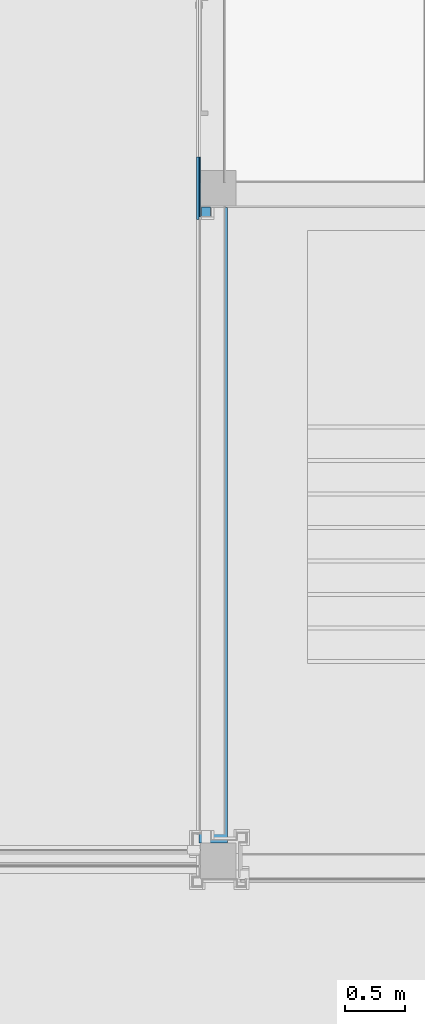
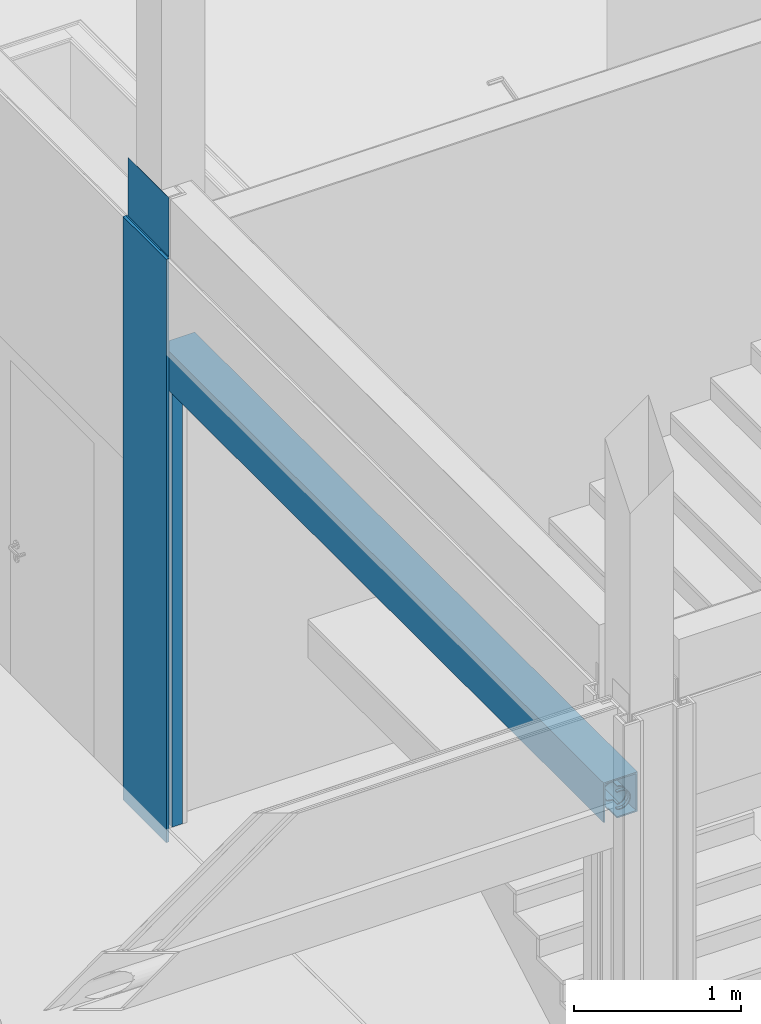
# One storey, part 173 of 260: 2 building element parts, 2 discrete accessories, 1 element without a shape of its own.
"""IFC2X3 building model written with IfcOpenShell, lengths in millimetres."""

from ifc_helpers import new_model, entity, si_unit, converted_unit, derived_unit, money_unit, direction, frame, origin_with_axes, place, context, subcontext, project, spatial, faceted_brep, material, material_list, type_object, element, aggregate, save


model = new_model("IFC2X3")

# Units and contexts
model_context = context("Model", 3, precision=0.01, world=origin_with_axes(), true_north=direction((0.0, 1.0)))
body_context = subcontext(model_context, "Body", "Model", "MODEL_VIEW")
ifc_project = project(units=[si_unit("LENGTHUNIT", "METRE", prefix="MILLI"), si_unit("AREAUNIT", "SQUARE_METRE"), si_unit("VOLUMEUNIT", "CUBIC_METRE"), converted_unit("PLANEANGLEUNIT", "DEGREE", entity("IfcPlaneAngleMeasure", 0.0174532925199), si_unit("PLANEANGLEUNIT", "RADIAN"), dimensions=[0, 0, 0, 0, 0, 0, 0]), money_unit("EUR"), converted_unit("TIMEUNIT", "Year", entity("IfcTimeMeasure", 31556926.0), si_unit("TIMEUNIT", "SECOND"), dimensions=[0, 0, 1, 0, 0, 0, 0]), si_unit("MASSUNIT", "GRAM", prefix="KILO"), si_unit("THERMODYNAMICTEMPERATUREUNIT", "DEGREE_CELSIUS"), si_unit("LUMINOUSINTENSITYUNIT", "LUMEN"), si_unit("ENERGYUNIT", "JOULE", prefix="MEGA"), derived_unit("THERMALCONDUCTANCEUNIT", [(si_unit("POWERUNIT", "WATT"), 1), (si_unit("LENGTHUNIT", "METRE"), -1), (si_unit("THERMODYNAMICTEMPERATUREUNIT", "KELVIN"), -1)]), derived_unit("SPECIFICHEATCAPACITYUNIT", [(si_unit("ENERGYUNIT", "JOULE"), 1), (si_unit("MASSUNIT", "GRAM", prefix="KILO"), -1), (si_unit("THERMODYNAMICTEMPERATUREUNIT", "KELVIN"), -1)]), derived_unit("MASSDENSITYUNIT", [(si_unit("MASSUNIT", "GRAM", prefix="KILO"), 1), (si_unit("VOLUMEUNIT", "CUBIC_METRE"), -1)])], contexts=[model_context])

# Site, building, storey
site_placement = place(None, origin_with_axes())
site = spatial("IfcSite", under=ifc_project, at=site_placement, Name="Kolde pst 67a", CompositionType="ELEMENT")
building_placement = place(site_placement, origin_with_axes())
building = spatial("IfcBuilding", under=site, at=building_placement, Name="Riigigümnaasium", CompositionType="ELEMENT")
storey_placement = place(building_placement, origin_with_axes())
storey = spatial("IfcBuildingStorey", under=building, at=storey_placement, Name="1. korrus", CompositionType="ELEMENT", Elevation=0.0)

# Discrete accessories
ifc_material_1 = material(Name="_ÕHK")
ifc_material_2 = material(Name="_METALL - teras")
ifc_material_list = material_list([ifc_material_1, ifc_material_2])
discrete_accessory_type_1 = type_object("IfcDiscreteAccessoryType", Name="Fibreshield-p H kuni 6 m  235 x 290")
discrete_accessory_1_placement = place(storey_placement, frame((52819.9941222, 34229.9999729, 3200.0), z_axis=(0.0, 0.0, 1.0), x_axis=(-1.0, 0.0, 0.0)))
element("IfcDiscreteAccessory", 1, at=discrete_accessory_1_placement, inside=storey, type_object=discrete_accessory_type_1, material=ifc_material_list, Name="Tuletõkkekardin", context=body_context, shape_type="Brep", body=[
    faceted_brep([(123.519091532, 0.0, 69.546054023), (123.519091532, 70.0, 69.546054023), (117.000000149, 70.0, 67.9912692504), (117.000000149, 0.0, 67.9912692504), (125.382804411, 0.0, 64.871315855), (125.382804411, 70.0, 64.871315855), (117.000000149, 70.0, 62.3838057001), (117.000000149, 0.0, 62.3838057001)], [[[0, 1, 2, 3]], [[4, 5, 1, 0]], [[5, 6, 2, 1]], [[3, 2, 6, 7]], [[0, 3, 7, 4]], [[7, 6, 5, 4]]]),
    faceted_brep([(157.499999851, 70.0, 20.0), (157.499999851, 0.0, 20.0), (157.499999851, 0.0, 126.667118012), (157.499999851, 70.0, 126.667118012), (162.499999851, 0.0, 20.0), (162.499999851, 70.0, 20.0), (162.499999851, 0.0, 126.667118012), (161.228447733, 0.0, 139.948701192), (157.459986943, 0.0, 152.747763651), (146.556964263, 0.0, 171.140082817), (130.610610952, 0.0, 185.383225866), (117.000000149, 0.0, 191.50050212), (117.000000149, 0.0, 185.870531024), (124.999999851, 0.0, 182.958769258), (142.292888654, 0.0, 168.448312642), (153.580020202, 0.0, 148.898427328), (153.580020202, 70.0, 148.898427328), (142.292888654, 70.0, 168.448312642), (124.999999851, 70.0, 182.958769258), (117.000000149, 70.0, 185.870531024), (117.000000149, 70.0, 191.50050212), (130.610610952, 70.0, 185.383225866), (146.556964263, 70.0, 171.140082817), (157.459986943, 70.0, 152.747763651), (161.228447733, 70.0, 139.948701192), (162.499999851, 70.0, 126.667118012)], [[[0, 1, 2, 3]], [[4, 1, 0, 5]], [[1, 4, 6, 7, 8, 9, 10, 11, 12, 13, 14, 15, 2]], [[15, 16, 3, 2]], [[5, 0, 3, 16, 17, 18, 19, 20, 21, 22, 23, 24, 25]], [[4, 5, 25, 6]], [[6, 25, 24, 7]], [[7, 24, 23, 8]], [[8, 23, 22, 9]], [[9, 22, 21, 10]], [[10, 21, 20, 11]], [[11, 20, 19, 12]], [[12, 19, 18, 13]], [[13, 18, 17, 14]], [[14, 17, 16, 15]]]),
    faceted_brep([(116.0, 5290.00031686, 62.0870660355), (116.0, 5290.00031686, 67.7527720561), (106.0, 5290.00031686, 65.3678004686), (106.0, 5290.00031686, 59.4547520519), (107.591032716, 5290.00031686, 59.5917922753), (116.0, 5310.00031686, 67.7527720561), (116.0, 5310.00031686, 62.0870660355), (97.8520772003, 5310.00031686, 63.4245440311), (97.8520772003, 5290.00031686, 63.4245440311), (103.787131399, 5290.00031686, 190.679621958), (106.0, 5290.00031686, 189.874203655), (106.0, 5290.00031686, 194.742343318), (89.8705986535, 5290.00031686, 196.617716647), (68.8778440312, 5290.00031686, 192.560924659), (50.0889560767, 5290.00031686, 182.356464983), (35.2568740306, 5290.00031686, 166.956378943), (25.7653806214, 5290.00031686, 147.797442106), (22.499999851, 5290.00031686, 126.667118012), (24.8060324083, 5290.00031686, 108.84783711), (31.572193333, 5290.00031686, 92.2026088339), (42.3526829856, 5290.00031686, 77.8281314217), (56.4372110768, 5290.00031686, 66.6714909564), (70.6684146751, 5290.00031686, 60.1586081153), (89.1009241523, 5290.00031686, 57.9991860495), (71.5213638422, 5290.00031686, 65.1456028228), (53.7254339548, 5290.00031686, 74.4988034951), (39.6388073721, 5290.00031686, 88.8425977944), (30.6090574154, 5290.00031686, 106.804810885), (27.499999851, 5290.00031686, 126.667118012), (31.4199794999, 5290.00031686, 148.898427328), (42.7071110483, 5290.00031686, 168.448312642), (59.999999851, 5290.00031686, 182.958769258), (81.2128683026, 5290.00031686, 190.679621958), (107.591032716, 5310.00031686, 59.5917922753), (89.1009241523, 5310.00031686, 57.9991860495), (116.0, 5310.00031686, 191.949951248), (116.0, 5310.00031686, 186.234501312), (103.787131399, 5310.00031686, 190.679621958), (81.2128683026, 5310.00031686, 190.679621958), (59.999999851, 5310.00031686, 182.958769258), (42.7071110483, 5310.00031686, 168.448312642), (31.4199794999, 5310.00031686, 148.898427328), (27.499999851, 5310.00031686, 126.667118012), (30.6090574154, 5310.00031686, 106.804810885), (39.6388073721, 5310.00031686, 88.8425977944), (53.7254339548, 5310.00031686, 74.4988034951), (71.5213638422, 5310.00031686, 65.1456028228), (70.6684146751, 5310.00031686, 60.1586081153), (56.4372110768, 5310.00031686, 66.6714909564), (42.3526829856, 5310.00031686, 77.8281314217), (31.572193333, 5310.00031686, 92.2026088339), (24.8060324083, 5310.00031686, 108.84783711), (22.499999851, 5310.00031686, 126.667118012), (25.7653806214, 5310.00031686, 147.797442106), (35.2568740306, 5310.00031686, 166.956378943), (50.0889560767, 5310.00031686, 182.356464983), (68.8778440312, 5310.00031686, 192.560924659), (89.8705986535, 5310.00031686, 196.617716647), (111.10866745, 5310.00031686, 194.148356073), (116.0, 5290.00031686, 186.234501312), (116.0, 5290.00031686, 191.949951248), (111.10866745, 5290.00031686, 194.148356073)], [[[0, 1, 2, 3, 4]], [[5, 1, 0, 6]], [[1, 5, 7, 8, 2]], [[9, 10, 11, 12, 13, 14, 15, 16, 17, 18, 19, 20, 21, 22, 23, 3, 2, 8, 24, 25, 26, 27, 28, 29, 30, 31, 32]], [[33, 4, 3, 23, 34]], [[6, 0, 4, 33]], [[35, 36, 37, 38, 39, 40, 41, 42, 43, 44, 45, 46, 7, 5, 6, 33, 34, 47, 48, 49, 50, 51, 52, 53, 54, 55, 56, 57, 58]], [[46, 24, 8, 7]], [[36, 59, 10, 9, 37]], [[59, 60, 61, 11, 10]], [[12, 11, 61, 58, 57]], [[56, 13, 12, 57]], [[55, 14, 13, 56]], [[54, 15, 14, 55]], [[53, 16, 15, 54]], [[52, 17, 16, 53]], [[51, 18, 17, 52]], [[50, 19, 18, 51]], [[49, 20, 19, 50]], [[48, 21, 20, 49]], [[47, 22, 21, 48]], [[34, 23, 22, 47]], [[45, 25, 24, 46]], [[44, 26, 25, 45]], [[43, 27, 26, 44]], [[42, 28, 27, 43]], [[41, 29, 28, 42]], [[40, 30, 29, 41]], [[39, 31, 30, 40]], [[38, 32, 31, 39]], [[37, 9, 32, 38]], [[35, 60, 59, 36]], [[60, 35, 58, 61]]]),
    faceted_brep([(123.519091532, 5205.00031686, 69.546054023), (116.0, 5205.00031686, 67.7527720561), (97.8520772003, 5205.00031686, 63.4245440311), (97.8520772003, 100.0, 63.4245440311), (123.519091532, 100.0, 69.546054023), (125.382804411, 5205.00031686, 64.871315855), (116.0, 5205.00031686, 62.0870660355), (107.591032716, 5205.00031686, 59.5917922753), (89.1009241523, 5205.00031686, 57.9991860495), (86.0, 5205.00031686, 58.3624683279), (86.0, 5205.00031686, 64.1992333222), (87.000000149, 80.0, 64.1338701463), (87.000000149, 100.0, 64.1338701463), (86.0, 5260.00031686, 64.1992333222), (71.5213638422, 5260.00031686, 65.1456028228), (71.5213638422, 0.0, 65.1456028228), (87.000000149, 0.0, 64.1338701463), (87.000000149, 100.0, 58.2453154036), (89.1009241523, 100.0, 57.9991860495), (107.591032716, 100.0, 59.5917922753), (125.382804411, 100.0, 64.871315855), (87.000000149, 80.0, 58.2453154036), (87.000000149, 0.0, 58.2453154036), (70.6684146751, 0.0, 60.1586081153), (70.6684146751, 5260.00031686, 60.1586081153), (86.0, 5260.00031686, 58.3624683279), (68.8778440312, 5260.00031686, 192.560924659), (86.0, 5260.00031686, 195.869734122), (86.0, 5260.00031686, 190.679621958), (81.2128683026, 5260.00031686, 190.679621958), (59.999999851, 5260.00031686, 182.958769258), (42.7071110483, 5260.00031686, 168.448312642), (31.4199794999, 5260.00031686, 148.898427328), (27.499999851, 5260.00031686, 126.667118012), (30.6090574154, 5260.00031686, 106.804810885), (39.6388073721, 5260.00031686, 88.8425977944), (53.7254339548, 5260.00031686, 74.4988034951), (56.4372110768, 5260.00031686, 66.6714909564), (42.3526829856, 5260.00031686, 77.8281314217), (31.572193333, 5260.00031686, 92.2026088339), (24.8060324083, 5260.00031686, 108.84783711), (22.499999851, 5260.00031686, 126.667118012), (25.7653806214, 5260.00031686, 147.797442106), (35.2568740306, 5260.00031686, 166.956378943), (50.0889560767, 5260.00031686, 182.356464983), (53.7254339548, 0.0, 74.4988034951), (81.2128683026, 0.0, 190.679621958), (87.000000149, 0.0, 190.679621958), (87.000000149, 0.0, 196.062981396), (68.8778440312, 0.0, 192.560924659), (50.0889560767, 0.0, 182.356464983), (35.2568740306, 0.0, 166.956378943), (25.7653806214, 0.0, 147.797442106), (22.499999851, 0.0, 126.667118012), (24.8060324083, 0.0, 108.84783711), (31.572193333, 0.0, 92.2026088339), (42.3526829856, 0.0, 77.8281314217), (56.4372110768, 0.0, 66.6714909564), (39.6388073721, 0.0, 88.8425977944), (30.6090574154, 0.0, 106.804810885), (27.499999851, 0.0, 126.667118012), (31.4199794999, 0.0, 148.898427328), (42.7071110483, 0.0, 168.448312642), (59.999999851, 0.0, 182.958769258), (87.000000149, 80.0, 196.062981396), (87.000000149, 100.0, 196.062981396), (89.8705986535, 100.0, 196.617716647), (89.8705986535, 5205.00031686, 196.617716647), (86.0, 5205.00031686, 195.869734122), (86.0, 5205.00031686, 190.679621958), (103.787131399, 100.0, 190.679621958), (87.000000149, 100.0, 190.679621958), (87.000000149, 80.0, 190.679621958), (103.787131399, 5205.00031686, 190.679621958), (111.10866745, 100.0, 194.148356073), (124.999999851, 100.0, 182.958769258), (142.292888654, 100.0, 168.448312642), (153.580020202, 100.0, 148.898427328), (157.499999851, 100.0, 126.667118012), (157.499999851, 100.0, 0.555395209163), (162.499999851, 100.0, 0.555395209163), (162.499999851, 100.0, 126.667118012), (161.228447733, 100.0, 139.948701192), (157.459986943, 100.0, 152.747763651), (146.556964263, 100.0, 171.140082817), (130.610610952, 100.0, 185.383225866), (111.10866745, 5205.00031686, 194.148356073), (116.0, 5205.00031686, 191.949951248), (130.610610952, 5205.00031686, 185.383225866), (146.556964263, 5205.00031686, 171.140082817), (157.459986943, 5205.00031686, 152.747763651), (161.228447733, 5205.00031686, 139.948701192), (162.499999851, 5205.00031686, 126.667118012), (162.499999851, 5205.00031686, 0.555395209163), (157.499999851, 5205.00031686, 0.555395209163), (157.499999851, 5205.00031686, 126.667118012), (153.580020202, 5205.00031686, 148.898427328), (142.292888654, 5205.00031686, 168.448312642), (124.999999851, 5205.00031686, 182.958769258), (116.0, 5205.00031686, 186.234501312)], [[[0, 1, 2, 3, 4]], [[1, 0, 5, 6, 7, 8, 9, 10, 2]], [[11, 12, 3, 2, 10, 13, 14, 15, 16]], [[4, 3, 12, 17, 18, 19, 20]], [[5, 0, 4, 20]], [[6, 5, 20, 19, 7]], [[7, 19, 18, 8]], [[18, 17, 21, 22, 23, 24, 25, 9, 8]], [[25, 13, 10, 9]], [[17, 12, 11, 21]], [[26, 27, 28, 29, 30, 31, 32, 33, 34, 35, 36, 14, 13, 25, 24, 37, 38, 39, 40, 41, 42, 43, 44]], [[15, 14, 36, 45]], [[46, 47, 48, 49, 50, 51, 52, 53, 54, 55, 56, 57, 23, 22, 16, 15, 45, 58, 59, 60, 61, 62, 63]], [[22, 21, 11, 16]], [[57, 37, 24, 23]], [[64, 65, 66, 67, 68, 27, 26, 49, 48]], [[28, 27, 68, 69]], [[70, 71, 72, 47, 46, 29, 28, 69, 73]], [[63, 30, 29, 46]], [[62, 31, 30, 63]], [[61, 32, 31, 62]], [[60, 33, 32, 61]], [[59, 34, 33, 60]], [[58, 35, 34, 59]], [[45, 36, 35, 58]], [[56, 38, 37, 57]], [[55, 39, 38, 56]], [[54, 40, 39, 55]], [[53, 41, 40, 54]], [[52, 42, 41, 53]], [[51, 43, 42, 52]], [[50, 44, 43, 51]], [[49, 26, 44, 50]], [[47, 72, 64, 48]], [[71, 65, 64, 72]], [[74, 66, 65, 71, 70, 75, 76, 77, 78, 79, 80, 81, 82, 83, 84, 85]], [[67, 66, 74, 86]], [[87, 88, 89, 90, 91, 92, 93, 94, 95, 96, 97, 98, 99, 73, 69, 68, 67, 86]], [[99, 98, 75, 70, 73]], [[98, 97, 76, 75]], [[97, 96, 77, 76]], [[96, 95, 78, 77]], [[95, 94, 79, 78]], [[94, 93, 80, 79]], [[93, 92, 81, 80]], [[92, 91, 82, 81]], [[91, 90, 83, 82]], [[90, 89, 84, 83]], [[89, 88, 85, 84]], [[88, 87, 86, 74, 85]]]),
    faceted_brep([(116.0, 5205.00031686, 10.0000019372), (116.0, 5310.00031686, 10.0000019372), (-14.9999980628, 5310.00031686, 10.0000019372), (-14.9999980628, 0.0, 10.0000019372), (117.000000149, 0.0, 10.0000019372), (117.000000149, 100.0, 10.0000019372), (122.368444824, 100.0, 10.0000019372), (122.368444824, 5205.00031686, 10.0000019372), (116.0, 5205.00031686, 0.0), (116.0, 5310.00031686, 0.0), (-25.0, 5310.00031686, 0.0), (-25.0, 5310.00031686, 290.0), (210.000000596, 5310.00031686, 290.0), (210.000000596, 5310.00031686, 0.0), (199.999998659, 5310.00031686, 0.0), (199.999998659, 5310.00031686, 279.999998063), (-14.9999980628, 5310.00031686, 279.999998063), (-14.9999980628, 0.0, 279.999998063), (117.000000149, 0.0, 0.0), (199.999998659, 0.0, 279.999998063), (199.999998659, 0.0, 0.0), (210.000000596, 0.0, 0.0), (210.000000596, 0.0, 290.0), (-25.0, 0.0, 290.0), (-25.0, 0.0, 0.0), (117.000000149, 100.0, 0.0), (122.368444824, 100.0, 0.0), (122.368444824, 5205.00031686, 0.0)], [[[0, 1, 2, 3, 4, 5, 6, 7]], [[1, 0, 8, 9]], [[1, 9, 10, 11, 12, 13, 14, 15, 16, 2]], [[3, 2, 16, 17]], [[18, 4, 3, 17, 19, 20, 21, 22, 23, 24]], [[5, 4, 18, 25]], [[6, 5, 25, 26]], [[27, 7, 6, 26]], [[0, 7, 27, 8]], [[8, 27, 26, 25, 18, 24, 10, 9]], [[23, 11, 10, 24]], [[22, 12, 11, 23]], [[21, 13, 12, 22]], [[20, 14, 13, 21]], [[19, 15, 14, 20]], [[17, 16, 15, 19]]]),
])
discrete_accessory_type_2 = type_object("IfcDiscreteAccessoryType", Name="_METALL - teras 74 x 105")
discrete_accessory_2_placement = place(storey_placement, frame((52665.9941221, 34182.4999729, 0.0), z_axis=(0.0, 0.0, 1.0), x_axis=(1.0, 0.0, 0.0)))
element("IfcDiscreteAccessory", 2, at=discrete_accessory_2_placement, inside=storey, type_object=discrete_accessory_type_2, material=ifc_material_2, Name="Tuletõkke kardin", context=body_context, shape_type="Brep", body=[
    faceted_brep([(37.0, 52.5, 3220.0), (37.0, 52.5, 0.0), (-37.0, 52.5, 0.0), (-37.0, 52.5, 3220.0), (37.0, -52.5, 3220.0), (37.0, -52.5, 0.0), (-37.0, -52.5, 0.0), (-37.0, -52.5, 3220.0)], [[[0, 1, 2, 3]], [[4, 5, 1, 0]], [[2, 1, 5, 6]], [[3, 2, 6, 7]], [[4, 0, 3, 7]], [[7, 6, 5, 4]]]),
])

# Wall, building element parts
wall_type = type_object("IfcWallType", Name="SS-MK-1/1_1x dold pinnakiht 30", PredefinedType="NOTDEFINED")
wall_placement = place(storey_placement, frame((52619.9941206, 34649.9999729, -120.1), z_axis=(0.0, 0.0, 1.0), x_axis=(0.0, -1.0, 0.0)))
wall = element("IfcWall", 3, at=wall_placement, inside=storey, type_object=wall_type, Name="Sisesein")
ifc_material_3 = material(Name="_KARKASS - eriprofiilkinnitus vastavalt sisemisele plaatviimistlusele")
building_element_part_1_placement = place(wall_placement, origin_with_axes())
building_element_part_1 = element("IfcBuildingElementPart", 4, at=building_element_part_1_placement, material=ifc_material_3, Name="_KARKASS - eriprofiilkinnitus vastavalt sisemisele plaatviimistlusele", context=body_context, shape_type="Brep", body=[
    faceted_brep([(420.0, 2.9794762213e-06, 3320.1), (500.0, 2.9794762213e-06, 3320.1), (500.0, 0.0, 120.1), (0.0, 0.0, 120.1), (0.0, 0.0, 4290.1), (10.0, 0.0, 4290.1), (10.0, 0.0, 4720.1), (500.0, 0.0, 4720.1), (500.0, 0.0, 3610.1), (420.0, 0.0, 3610.1), (420.0, 2.9794762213e-06, 3600.09999806), (420.0, -9.99999895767, 3320.1), (500.0, -9.99999895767, 3320.1), (500.0, -10.0, 120.1), (0.0, -10.0, 120.1), (0.0, -10.0, 4290.1), (500.0, -10.0, 4290.1), (500.0, -0.999998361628, 4290.1), (10.0, -0.999998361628, 4290.1), (10.0, -0.999998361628, 4720.1), (500.0, -0.999998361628, 4720.1), (500.0, -9.99999895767, 3610.1), (420.0, -9.99999895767, 3610.1)], [[[0, 1, 2, 3, 4, 5, 6, 7, 8, 9, 10]], [[1, 0, 11, 12]], [[1, 12, 13, 2]], [[13, 14, 3, 2]], [[4, 3, 14, 15]], [[15, 16, 17, 18, 5, 4]], [[5, 18, 19, 6]], [[6, 19, 20, 7]], [[21, 8, 7, 20, 17, 16]], [[9, 8, 21, 22]], [[10, 9, 22, 11, 0]], [[22, 21, 16, 15, 14, 13, 12, 11]], [[20, 19, 18, 17]]]),
])
ifc_material_4 = material(Name="_VIIMISTLUSKIHT - Dold plaat vastavalt SA osale")
building_element_part_2_placement = place(wall_placement, origin_with_axes())
building_element_part_2 = element("IfcBuildingElementPart", 5, at=building_element_part_2_placement, material=ifc_material_4, Name="_VIIMISTLUSKIHT - Dold plaat vastavalt SA osale", context=body_context, shape_type="Brep", body=[
    faceted_brep([(0.0, -10.0, 4290.1), (0.0, -30.0, 4290.1), (520.0, -30.0, 4290.1), (520.0, -10.0, 4290.1), (0.0, -10.0, 20.0), (0.0, -30.0, 20.0), (520.0, -30.0, 20.0), (520.0, -10.0, 20.0)], [[[0, 1, 2, 3]], [[0, 4, 5, 1]], [[6, 2, 1, 5]], [[7, 3, 2, 6]], [[0, 3, 7, 4]], [[6, 5, 4, 7]]]),
])
aggregate(wall, [building_element_part_1, building_element_part_2])

save(model, "model.ifc")
